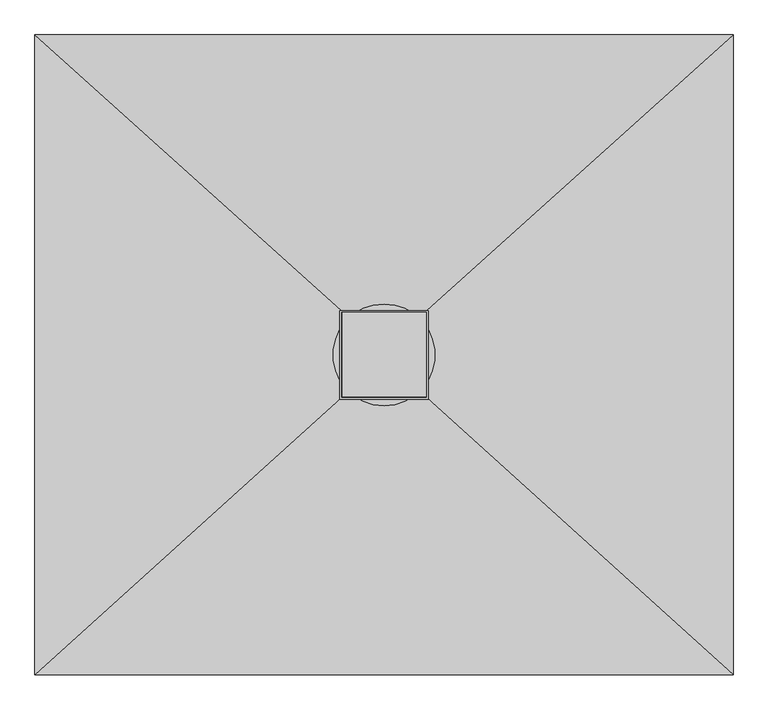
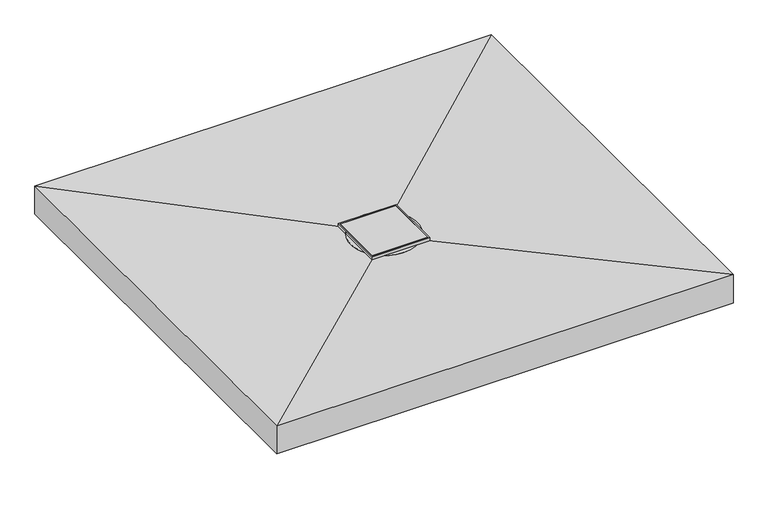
"""IFC4 building model written with IfcOpenShell, lengths in millimetres: sanitary terminal geometry, NLRS_PF_52_UN_Showerboard Aqua Brilliant_Easydrain : Aqua Brilliant onderuitloop 50mm."""

from ifc_helpers import new_model, si_unit, point, frame, origin, origin_2d, place, context, project, spatial, polyline, circle_curve, trimmed, segment, composite_curve, outline, extrude, faceted_brep, source, transform, mapped, element, save
from ifc_brep_helpers import plane_surface, cylinder_surface, revolved_surface, advanced_brep


def sanitary_terminal_6ee30efb(model_context):
    return source(origin(), model_context, "Body", "SolidModel", [
        extrude(outline(composite_curve([segment(trimmed(circle_curve(origin_2d(), 25.0), [point((0.0, 25.0))], [point((0.0, -25.0))], False, "CARTESIAN"), True, "CONTINUOUS"), segment(trimmed(circle_curve(origin_2d(), 25.0), [point((0.0, -25.0))], [point((0.0, 25.0))], False, "CARTESIAN"), True, "CONTINUOUS")], self_intersect=False)), frame((0.0, 0.0, -141.0), z_axis=(0.0, 0.0, 1.0), x_axis=(1.0, 0.0, 0.0)), (0.0, 0.0, 1.0), 125.0),
        faceted_brep([(600.0, 550.0, -77.0), (600.0, -550.0, -77.0), (-600.0, -550.0, -77.0), (-600.0, 550.0, -77.0), (25.0, 0.0, -77.0), (-25.0, 0.0, -77.0), (-25.0, -50.0, -77.0), (25.0, -50.0, -77.0), (-600.0, 550.0, 1.0), (600.0, 550.0, 1.0), (-600.0, -550.0, 1.0), (600.0, -550.0, 1.0), (73.0, 76.0, -9.0), (-73.0, 76.0, -9.0), (-73.0, -73.0, -9.0), (73.0, -73.0, -9.0), (-25.0, 0.0, -29.0), (25.0, 0.0, -29.0), (-25.0, -50.0, -29.0), (25.0, -50.0, -29.0)], [[[0, 1, 2, 3], [4, 5, 6, 7]], [[0, 3, 8, 9]], [[3, 2, 10, 8]], [[2, 1, 11, 10]], [[1, 0, 9, 11]], [[12, 13, 14, 15]], [[13, 12, 9, 8]], [[14, 13, 8, 10]], [[15, 14, 10, 11]], [[12, 15, 11, 9]], [[16, 5, 4, 17]], [[18, 19, 7, 6]], [[16, 17, 19, 18]], [[17, 4, 7, 19]], [[5, 16, 18, 6]]]),
        extrude(outline(polyline([(76.0, 76.0), (76.0, -76.0), (-76.0, -76.0), (-76.0, 76.0), (76.0, 76.0)]), holes=[polyline([(73.0, 73.0), (-73.0, 73.0), (-73.0, -73.0), (73.0, -73.0), (73.0, 73.0)])]), frame((0.0, 0.0, -9.0), z_axis=(0.0, 0.0, 1.0), x_axis=(1.0, 0.0, 0.0)), (0.0, 0.0, 1.0), 9.0),
        extrude(outline(polyline([(74.0, 74.0), (74.0, -72.0), (-72.0, -72.0), (-72.0, 74.0), (74.0, 74.0)])), frame((0.0, 0.0, -9.0), z_axis=(0.0, 0.0, 1.0), x_axis=(1.0, 0.0, 0.0)), (0.0, 0.0, 1.0), 9.0),
        extrude(outline(composite_curve([segment(trimmed(circle_curve(origin_2d(), 87.5), [point((0.0, 87.5))], [point((0.0, -87.5))], False, "CARTESIAN"), True, "CONTINUOUS"), segment(trimmed(circle_curve(origin_2d(), 87.5), [point((0.0, -87.5))], [point((0.0, 87.5))], False, "CARTESIAN"), True, "CONTINUOUS")], self_intersect=False)), frame((0.0, 0.0, -11.0), z_axis=(0.0, 0.0, 1.0), x_axis=(1.0, 0.0, 0.0)), (0.0, 0.0, 1.0), 3.0),
        advanced_brep(
        [(25.0, 0.0, -77.0), (-25.0, 0.0, -77.0), (-73.0, 0.0, -77.0), (-72.9614474, 2.372172, -77.0), (-97.0710678, 26.4817925, -77.0), (-90.348995, 43.5467685, -77.0), (-57.7248547, 44.6860286, -77.0), (57.7248547, 44.6860286, -77.0), (90.348995, 43.5467685, -77.0), (97.0710678, 26.4817925, -77.0), (72.9614474, 2.372172, -77.0), (73.0, 0.0, -77.0), (-25.0, -62.3925051, -77.0), (-37.8969037, -62.3925051, -77.0), (37.8969037, -62.3925051, -77.0), (25.0, -62.3925051, -77.0), (73.0, 0.0, -9.0), (-73.0, 0.0, -9.0), (-25.0, 0.0, -9.0), (25.0, 0.0, -9.0), (85.3290047, 0.0, -43.5), (-85.3290047, 0.0, -43.5), (-73.0, 0.0, -43.5), (73.0, 0.0, -43.5), (-58.2083701, -62.3925051, -43.5), (-37.8969037, -62.3925051, -43.5), (37.8969037, -62.3925051, -43.5), (58.2083701, -62.3925051, -43.5), (85.3290047, 0.0, -46.0), (-85.3290047, 0.0, -46.0), (58.2083701, -62.3925051, -46.0), (-58.2083701, -62.3925051, -46.0), (73.0, 0.0, -46.0), (-73.0, 0.0, -46.0), (37.8969037, -62.3925051, -46.0), (-37.8969037, -62.3925051, -46.0), (-25.0, -62.3925051, -43.5), (-25.0, 0.0, -43.5), (25.0, 0.0, -43.5), (25.0, -62.3925051, -43.5), (-97.0710678, 26.4817925, -73.5), (-72.9614474, 2.372172, -73.5), (-57.7248547, 44.6860286, -73.5), (-90.348995, 43.5467685, -73.5), (97.0710678, 26.4817925, -73.5), (90.348995, 43.5467685, -73.5), (57.7248547, 44.6860286, -73.5), (72.9614474, 2.372172, -73.5)],
        [
            (0, 1, circle_curve(frame((0.0, 0.0, -77.0), z_axis=(0.0, 0.0, 1.0), x_axis=(-1.0, 0.0, 0.0)), 25.0)),
            (1, 2),
            (2, 3, circle_curve(frame((0.0, 0.0, -77.0), z_axis=(0.0, 0.0, -1.0), x_axis=(-1.0, 0.0, 0.0)), 73.0)),
            (3, 4),
            (4, 5, circle_curve(frame((-90.0, 33.5528603, -77.0), z_axis=(0.0, 0.0, -1.0), x_axis=(-1.0, 0.0, 0.0)), 10.0)),
            (5, 6),
            (6, 7, circle_curve(frame((0.0, 0.0, -77.0), z_axis=(0.0, 0.0, -1.0), x_axis=(-1.0, 0.0, 0.0)), 73.0)),
            (7, 8),
            (8, 9, circle_curve(frame((90.0, 33.5528603, -77.0), z_axis=(0.0, 0.0, -1.0), x_axis=(-1.0, 0.0, 0.0)), 10.0)),
            (9, 10),
            (10, 11, circle_curve(frame((0.0, 0.0, -77.0), z_axis=(0.0, 0.0, -1.0), x_axis=(-1.0, 0.0, 0.0)), 73.0)),
            (11, 0),
            (1, 12),
            (12, 13),
            (13, 2, circle_curve(frame((0.0, 0.0, -77.0), z_axis=(0.0, 0.0, -1.0), x_axis=(-1.0, 0.0, 0.0)), 73.0)),
            (11, 14, circle_curve(frame((0.0, 0.0, -77.0), z_axis=(0.0, 0.0, -1.0), x_axis=(-1.0, 0.0, 0.0)), 73.0)),
            (14, 15),
            (15, 0),
            (16, 17, circle_curve(frame((0.0, 0.0, -9.0), z_axis=(0.0, 0.0, 1.0), x_axis=(-1.0, 0.0, 0.0)), 73.0)),
            (17, 18),
            (18, 19, circle_curve(frame((0.0, 0.0, -9.0), z_axis=(0.0, 0.0, -1.0), x_axis=(-1.0, 0.0, 0.0)), 25.0)),
            (19, 16),
            (17, 16, circle_curve(frame((0.0, 0.0, -9.0), z_axis=(0.0, 0.0, 1.0), x_axis=(-1.0, 0.0, 0.0)), 73.0)),
            (19, 18, circle_curve(frame((0.0, 0.0, -9.0), z_axis=(0.0, 0.0, -1.0), x_axis=(-1.0, 0.0, 0.0)), 25.0)),
            (20, 21, circle_curve(frame((0.0, 0.0, -43.5), z_axis=(0.0, 0.0, 1.0), x_axis=(-1.0, 0.0, 0.0)), 85.3290047)),
            (21, 22),
            (22, 23, circle_curve(frame((0.0, 0.0, -43.5), z_axis=(0.0, 0.0, -1.0), x_axis=(-1.0, 0.0, 0.0)), 73.0)),
            (23, 20),
            (21, 24, circle_curve(frame((0.0, 0.0, -43.5), z_axis=(0.0, 0.0, 1.0), x_axis=(-1.0, 0.0, 0.0)), 85.3290047)),
            (24, 25),
            (25, 22, circle_curve(frame((0.0, 0.0, -43.5), z_axis=(0.0, 0.0, -1.0), x_axis=(-1.0, 0.0, 0.0)), 73.0)),
            (23, 26, circle_curve(frame((0.0, 0.0, -43.5), z_axis=(0.0, 0.0, -1.0), x_axis=(-1.0, 0.0, 0.0)), 73.0)),
            (26, 27),
            (27, 20, circle_curve(frame((0.0, 0.0, -43.5), z_axis=(0.0, 0.0, 1.0), x_axis=(-1.0, 0.0, 0.0)), 85.3290047)),
            (20, 28),
            (28, 29, circle_curve(frame((0.0, 0.0, -46.0), z_axis=(0.0, 0.0, 1.0), x_axis=(-1.0, 0.0, 0.0)), 85.3290047)),
            (29, 21),
            (27, 30),
            (30, 28, circle_curve(frame((0.0, 0.0, -46.0), z_axis=(0.0, 0.0, 1.0), x_axis=(-1.0, 0.0, 0.0)), 85.3290047)),
            (29, 31, circle_curve(frame((0.0, 0.0, -46.0), z_axis=(0.0, 0.0, 1.0), x_axis=(-1.0, 0.0, 0.0)), 85.3290047)),
            (31, 24),
            (28, 32),
            (32, 33, circle_curve(frame((0.0, 0.0, -46.0), z_axis=(0.0, 0.0, 1.0), x_axis=(-1.0, 0.0, 0.0)), 73.0)),
            (33, 29),
            (30, 34),
            (34, 32, circle_curve(frame((0.0, 0.0, -46.0), z_axis=(0.0, 0.0, 1.0), x_axis=(-1.0, 0.0, 0.0)), 73.0)),
            (33, 35, circle_curve(frame((0.0, 0.0, -46.0), z_axis=(0.0, 0.0, 1.0), x_axis=(-1.0, 0.0, 0.0)), 73.0)),
            (35, 31),
            (25, 36),
            (36, 37),
            (37, 38, circle_curve(frame((0.0, 0.0, -43.5), z_axis=(0.0, 0.0, 1.0), x_axis=(-1.0, 0.0, 0.0)), 25.0)),
            (38, 39),
            (39, 26),
            (26, 25, circle_curve(frame((0.0, 0.0, -43.5), z_axis=(0.0, 0.0, -1.0), x_axis=(-1.0, 0.0, 0.0)), 73.0)),
            (35, 13),
            (12, 36),
            (39, 15),
            (14, 34),
            (40, 41),
            (41, 42, circle_curve(frame((0.0, 0.0, -73.5), z_axis=(0.0, 0.0, -1.0), x_axis=(-1.0, 0.0, 0.0)), 73.0)),
            (42, 43),
            (43, 40, circle_curve(frame((-90.0, 33.5528603, -73.5), z_axis=(0.0, 0.0, 1.0), x_axis=(-1.0, 0.0, 0.0)), 10.0)),
            (44, 45, circle_curve(frame((90.0, 33.5528603, -73.5), z_axis=(0.0, 0.0, 1.0), x_axis=(-1.0, 0.0, 0.0)), 10.0)),
            (45, 46),
            (46, 47, circle_curve(frame((0.0, 0.0, -73.5), z_axis=(0.0, 0.0, -1.0), x_axis=(-1.0, 0.0, 0.0)), 73.0)),
            (47, 44),
            (40, 4),
            (3, 41),
            (42, 6),
            (5, 43),
            (0, 38),
            (38, 19),
            (18, 37),
            (37, 1),
            (16, 23),
            (22, 17),
            (32, 11),
            (10, 47),
            (46, 7),
            (2, 33),
            (44, 9),
            (8, 45),
        ],
        [
            plane_surface(frame((0.0, 0.0, -77.0), z_axis=(0.0, 0.0, -1.0), x_axis=(-1.0, 0.0, 0.0))),
            plane_surface(frame((0.0, 0.0, -9.0), z_axis=(0.0, 0.0, 1.0), x_axis=(-1.0, 0.0, 0.0))),
            plane_surface(frame((0.0, 0.0, -43.5), z_axis=(0.0, 0.0, 1.0), x_axis=(-1.0, 0.0, 0.0))),
            cylinder_surface(frame((0.0, 0.0, -46.0), z_axis=(0.0, 0.0, -1.0), x_axis=(-1.0, 0.0, 0.0)), 85.3290047),
            plane_surface(frame((0.0, 0.0, -46.0), z_axis=(0.0, 0.0, -1.0), x_axis=(-1.0, 0.0, 0.0))),
            plane_surface(frame((73.895712, -62.3925051, -43.5), z_axis=(0.0, 0.0, -1.0), x_axis=(-1.0, 0.0, 0.0))),
            plane_surface(frame((73.895712, -62.3925051, -77.0), z_axis=(0.0, -1.0, 0.0), x_axis=(-1.0, 0.0, 0.0))),
            plane_surface(frame((-72.9614474, 2.372172, -73.5), z_axis=(0.0, 0.0, 1.0), x_axis=(0.7071067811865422, -0.7071067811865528, 0.0))),
            plane_surface(frame((-97.0710678, 26.4817925, -73.5), z_axis=(-0.7071067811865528, -0.7071067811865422, 0.0), x_axis=(0.0, 0.0, -1.0))),
            plane_surface(frame((-57.7248547, 44.6860286, -73.5), z_axis=(-0.03489949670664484, 0.9993908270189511, 0.0), x_axis=(0.0, 0.0, -1.0))),
            cylinder_surface(frame((-90.0, 33.5528603, -77.0), z_axis=(0.0, 0.0, 1.0), x_axis=(-1.0, 0.0, 0.0)), 10.0),
            revolved_surface(polyline([(-25.0, 0.0, -77.0), (-25.0, 0.0, -9.0)]), (0.0, 0.0, -46.0), (0.0, 0.0, -1.0)),
            revolved_surface(polyline([(-25.0, 0.0, -43.5), (-25.0, 0.0, -9.0)]), (0.0, 0.0, -46.0), (0.0, 0.0, -1.0)),
            cylinder_surface(frame((0.0, 0.0, -46.0), z_axis=(0.0, 0.0, -1.0), x_axis=(-1.0, 0.0, 0.0)), 73.0),
            plane_surface(frame((-25.0, -250.0, -43.5), z_axis=(1.0, 0.0, 0.0), x_axis=(0.0, 1.0, 0.0))),
            plane_surface(frame((25.0, -250.0, -77.0), z_axis=(-1.0, 0.0, 0.0), x_axis=(0.0, 1.0, 0.0))),
            cylinder_surface(frame((90.0, 33.5528603, -77.0), z_axis=(0.0, 0.0, 1.0), x_axis=(-1.0, 0.0, 0.0)), 10.0),
            plane_surface(frame((90.348995, 43.5467685, -73.5), z_axis=(0.034899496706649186, 0.9993908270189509, 0.0), x_axis=(0.0, 0.0, -1.0))),
            plane_surface(frame((72.9614474, 2.372172, -73.5), z_axis=(0.7071067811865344, -0.7071067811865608, 0.0), x_axis=(0.0, 0.0, -1.0))),
        ],
        [
            (0, [[1, 2, 3, 4, 5, 6, 7, 8, 9, 10, 11, 12]]),
            (0, [[-2, 13, 14, 15]]),
            (0, [[-12, 16, 17, 18]]),
            (1, [[19, 20, 21, 22]]),
            (1, [[-20, 23, -22, 24]]),
            (2, [[25, 26, 27, 28]]),
            (2, [[-26, 29, 30, 31]]),
            (2, [[-28, 32, 33, 34]]),
            (3, [[-25, 35, 36, 37]]),
            (3, [[-35, -34, 38, 39]]),
            (3, [[-37, 40, 41, -29]]),
            (4, [[-36, 42, 43, 44]]),
            (4, [[-42, -39, 45, 46]]),
            (4, [[-44, 47, 48, -40]]),
            (5, [[49, 50, 51, 52, 53, 54]]),
            (6, [[-30, -41, -48, 55, -14, 56, -49]]),
            (6, [[-33, -53, 57, -17, 58, -45, -38]]),
            (7, [[59, 60, 61, 62]]),
            (7, [[63, 64, 65, 66]]),
            (8, [[-59, 67, -4, 68]]),
            (9, [[-61, 69, -6, 70]]),
            (10, [[-62, -70, -5, -67]]),
            (11, [[-1, 71, 72, -21, 73, 74]]),
            (12, [[-24, -72, -51, -73]]),
            (13, [[-19, 75, -27, 76]]),
            (13, [[-23, -76, -31, -54, -32, -75]]),
            (13, [[-43, 77, -11, 78, -65, 79, -7, -69, -60, -68, -3, 80]]),
            (13, [[-77, -46, -58, -16]]),
            (13, [[-80, -15, -55, -47]]),
            (14, [[-50, -56, -13, -74]]),
            (15, [[-52, -71, -18, -57]]),
            (16, [[-63, 81, -9, 82]]),
            (17, [[-64, -82, -8, -79]]),
            (18, [[-66, -78, -10, -81]]),
        ],
    ),
    ])


if __name__ == "__main__":
    model = new_model("IFC4")
    model_context = context("Model", 3, world=origin())
    ifc_project = project(units=[si_unit("LENGTHUNIT", "METRE", prefix="MILLI")], contexts=[model_context])
    site = spatial("IfcSite", under=ifc_project)
    building = spatial("IfcBuilding", under=site)
    placement = place(None, origin())
    sanitary_terminal_shape = sanitary_terminal_6ee30efb(model_context)
    element("IfcSanitaryTerminal", 1, ObjectType="NLRS_PF_52_UN_Showerboard Aqua Brilliant_Easydrain : Aqua Brilliant onderuitloop 50mm", at=placement, inside=building, context=model_context, shape_type="MappedRepresentation", body=[
        mapped(sanitary_terminal_shape, transform((0.0, 0.0, 0.0), x_axis=(1.0, 0.0, 0.0), y_axis=(0.0, 1.0, 0.0), z_axis=(0.0, 0.0, 1.0))),
    ])
    save(model, "model.ifc")
